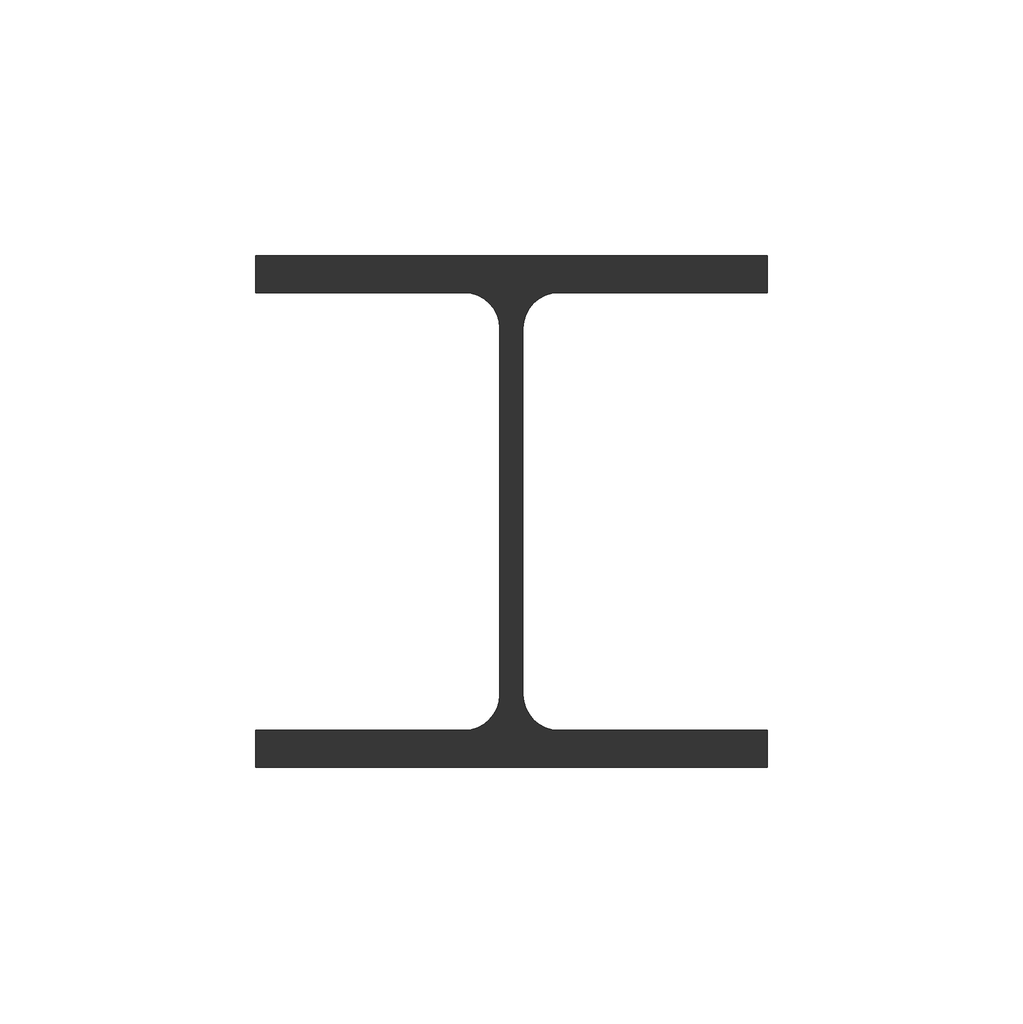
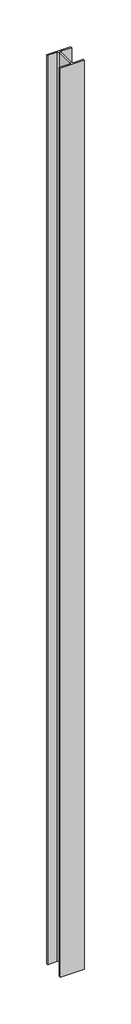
# One storey: 1 column.
"""IFC4 building model written with IfcOpenShell, lengths in millimetres."""

from ifc_helpers import new_model, si_unit, origin, place, context, project, spatial, transform, mapped, element, save
from components import column_a6e55074

model = new_model("IFC4")

# Units and contexts
model_context = context("Model", 3, world=origin())
ifc_project = project(units=[si_unit("LENGTHUNIT", "METRE", prefix="MILLI")], contexts=[model_context])

# Site, building, storey
site = spatial("IfcSite", under=ifc_project)
building = spatial("IfcBuilding", under=site)
storey = spatial("IfcBuildingStorey", under=building, Name="Уровень 3", Elevation=8000.0)

# Column
placement = place(None, origin())
column_shape = column_a6e55074(model_context)
element("IfcColumn", 1, ObjectType="08_Колонны_Высокая детализация КМ : 03_Колонны_Начало КМ", at=placement, inside=storey, context=model_context, shape_type="MappedRepresentation", body=[
    mapped(column_shape, transform((-3269.4630465, 9166.056696, 0.0), x_axis=(1.0, 0.0, 0.0), y_axis=(0.0, 1.0, 0.0), z_axis=(0.0, 0.0, 1.0))),
])

save(model, "model.ifc")
